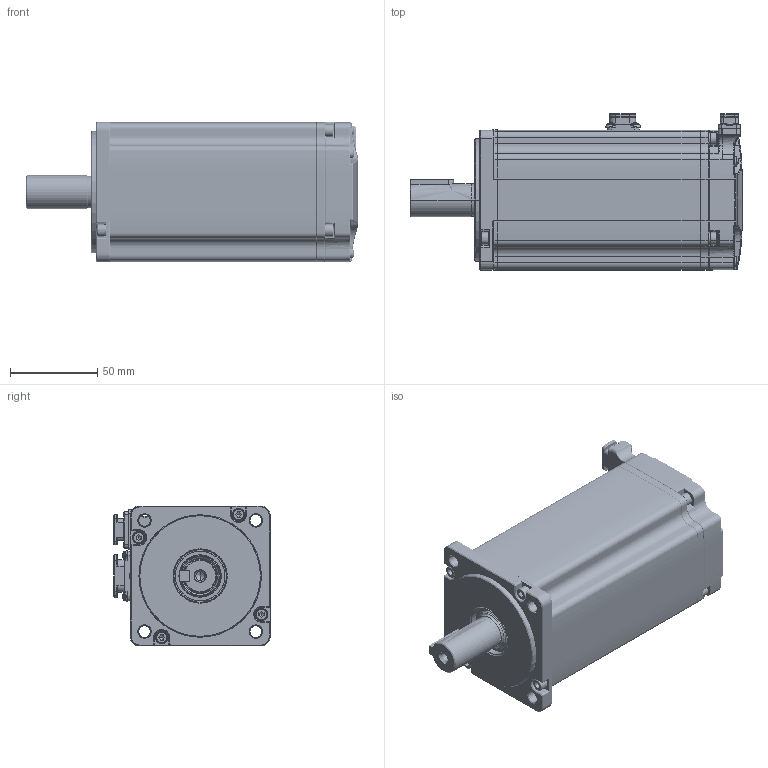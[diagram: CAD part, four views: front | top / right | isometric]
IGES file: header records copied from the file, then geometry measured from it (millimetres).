
Start section: SolidWorks IGES file using analytic representation for surfaces
Global section: file name: Z:\部门共同资料库\官网3D图\EM3Jnew\小型连接器电机\EM3J-10ALA243.IGS; native system: SolidWorks 2018; preprocessor: SolidWorks 2018; author: wangyitong; date: 231117.152834; units: millimetre
Bounding box: 190 x 89.3 x 80 mm (x, y, z)
Surface area: 154873.7 mm2 (no closed solid volume)
Topology: 0 solids, 0 shells, 2775 faces, 27157 edges, 27115 vertices
Faces by surface type: bspline 1594, revolution 1181
